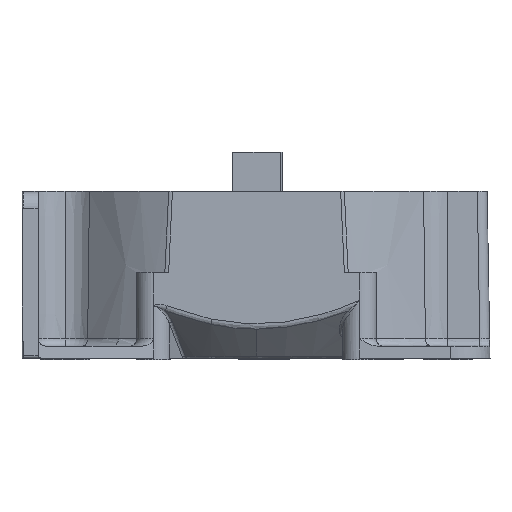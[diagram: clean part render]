
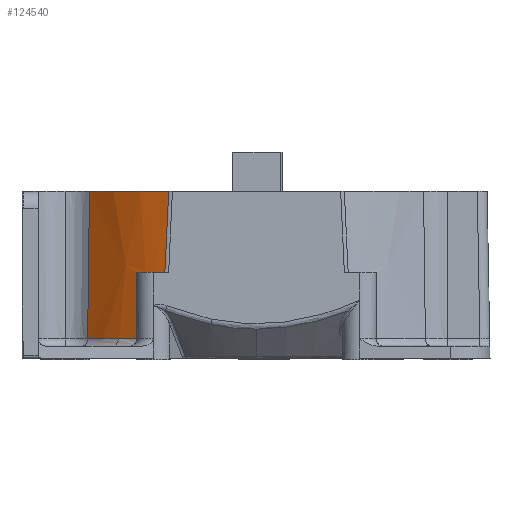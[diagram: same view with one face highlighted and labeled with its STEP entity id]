
A CAD part, left-side view. The second image highlights one B-rep face of the part: STEP entity #124540.
In plain terms, the highlighted conical face has half-angle 1 degrees and reference radius 48.687 mm.
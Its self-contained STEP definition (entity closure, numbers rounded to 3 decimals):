
#95010=CARTESIAN_POINT('',(-34.05,-10.8,0.));
#95020=VERTEX_POINT('',#95010);
#99570=CARTESIAN_POINT('',(-44.707,-26.957,0.));
#99580=VERTEX_POINT('',#99570);
#99610=CARTESIAN_POINT('',(0.,-44.85,
0.));
#99620=DIRECTION('',(0.,0.,-1.));
#99630=DIRECTION('',(-1.,0.,0.));
#99640=AXIS2_PLACEMENT_3D('',#99610,#99620,#99630);
#99650=CIRCLE('',#99640,48.154);
#99660=EDGE_CURVE('',#99580,#95020,#99650,.T.);
#123810=CARTESIAN_POINT('',(0.,-44.85,
-30.526));
#123820=DIRECTION('',(0.,0.,-1.));
#123830=DIRECTION('',(-1.,0.,0.));
#123840=AXIS2_PLACEMENT_3D('',#123810,#123820,#123830);
#123850=CONICAL_SURFACE('',#123840,48.687,0.017);
#123860=ORIENTED_EDGE('',*,*,#99660,.T.);
#123870=CARTESIAN_POINT('',(-44.695,-26.168,
-16.5));
#123880=CARTESIAN_POINT('',(-44.697,-26.297,
-13.745));
#123890=CARTESIAN_POINT('',(-44.699,-26.428,
-10.989));
#123900=CARTESIAN_POINT('',(-44.703,-26.691,
-5.489));
#123910=CARTESIAN_POINT('',(-44.705,-26.823,
-2.745));
#123920=CARTESIAN_POINT('',(-44.707,-26.957,0.));
#123930=B_SPLINE_CURVE_WITH_KNOTS('',3,(#123870,#123880,#123890,#123900,
#123910,#123920),.UNSPECIFIED.,.F.,.F.,(4,2,4),(0.,0.501,1.)
,.UNSPECIFIED.);
#123940=CARTESIAN_POINT('',(-44.695,-26.168,
-16.5));
#123950=VERTEX_POINT('',#123940);
#123960=EDGE_CURVE('',#123950,#99580,#123930,.T.);
#123970=ORIENTED_EDGE('',*,*,#123960,.T.);
#123980=CARTESIAN_POINT('',(0.,-44.85,
-16.5));
#123990=DIRECTION('',(0.,0.,-1.));
#124000=DIRECTION('',(-1.,0.,0.));
#124010=AXIS2_PLACEMENT_3D('',#123980,#123990,#124000);
#124020=CIRCLE('',#124010,48.442);
#124030=CARTESIAN_POINT('',(-41.808,-20.38,-16.5));
#124040=VERTEX_POINT('',#124030);
#124050=EDGE_CURVE('',#123950,#124040,#124020,.T.);
#124060=ORIENTED_EDGE('',*,*,#124050,.F.);
#124070=CARTESIAN_POINT('',(-42.112,-20.434,-30.));
#124080=CARTESIAN_POINT('',(-42.086,-20.428,
-28.875));
#124090=CARTESIAN_POINT('',(-42.06,-20.423,
-27.75));
#124100=CARTESIAN_POINT('',(-42.008,-20.412,
-25.5));
#124110=CARTESIAN_POINT('',(-41.983,-20.408,
-24.375));
#124120=CARTESIAN_POINT('',(-41.932,-20.399,
-22.125));
#124130=CARTESIAN_POINT('',(-41.907,-20.395,
-21.));
#124140=CARTESIAN_POINT('',(-41.857,-20.387,
-18.75));
#124150=CARTESIAN_POINT('',(-41.832,-20.383,
-17.625));
#124160=CARTESIAN_POINT('',(-41.808,-20.38,-16.5));
#124170=B_SPLINE_CURVE_WITH_KNOTS('',3,(#124070,#124080,#124090,#124100,
#124110,#124120,#124130,#124140,#124150,#124160),.UNSPECIFIED.,.F.,.F.,(
4,2,2,2,4),(0.,3.376,6.752,10.128,
13.504),.UNSPECIFIED.);
#124180=CARTESIAN_POINT('',(-42.112,-20.434,-30.));
#124190=VERTEX_POINT('',#124180);
#124200=EDGE_CURVE('',#124190,#124040,#124170,.T.);
#124210=ORIENTED_EDGE('',*,*,#124200,.T.);
#124220=CARTESIAN_POINT('',(-42.112,-20.434,-30.));
#124230=CARTESIAN_POINT('',(-42.112,-20.434,
-30.002));
#124240=CARTESIAN_POINT('',(-42.112,-20.434,
-30.004));
#124250=CARTESIAN_POINT('',(-42.112,-20.434,
-30.009));
#124260=CARTESIAN_POINT('',(-42.112,-20.434,
-30.011));
#124270=CARTESIAN_POINT('',(-42.112,-20.434,
-30.015));
#124280=CARTESIAN_POINT('',(-42.112,-20.434,
-30.017));
#124290=CARTESIAN_POINT('',(-42.112,-20.434,
-30.022));
#124300=CARTESIAN_POINT('',(-42.112,-20.434,
-30.024));
#124310=CARTESIAN_POINT('',(-42.112,-20.434,
-30.026));
#124320=B_SPLINE_CURVE_WITH_KNOTS('',3,(#124220,#124230,#124240,#124250,
#124260,#124270,#124280,#124290,#124300,#124310),.UNSPECIFIED.,.F.,.F.,(
4,2,2,2,4),(0.,0.007,0.013,0.02
,0.026),.UNSPECIFIED.);
#124330=CARTESIAN_POINT('',(-42.112,-20.434,
-30.026));
#124340=VERTEX_POINT('',#124330);
#124350=EDGE_CURVE('',#124190,#124340,#124320,.T.);
#124360=ORIENTED_EDGE('',*,*,#124350,.F.);
#124370=CARTESIAN_POINT('',(0.,-44.85,
-30.026));
#124380=DIRECTION('',(0.,0.,-1.));
#124390=DIRECTION('',(-1.,0.,0.));
#124400=AXIS2_PLACEMENT_3D('',#124370,#124380,#124390);
#124410=CIRCLE('',#124400,48.678);
#124420=CARTESIAN_POINT('',(-34.421,-10.429,
-30.026));
#124430=VERTEX_POINT('',#124420);
#124440=EDGE_CURVE('',#124340,#124430,#124410,.T.);
#124450=ORIENTED_EDGE('',*,*,#124440,.F.);
#124460=CARTESIAN_POINT('',(-34.421,-10.429,
-30.026));
#124470=DIRECTION('',(0.012,-0.012,
1.));
#124480=VECTOR('',#124470,1.);
#124490=LINE('',#124460,#124480);
#124500=EDGE_CURVE('',#124430,#95020,#124490,.T.);
#124510=ORIENTED_EDGE('',*,*,#124500,.F.);
#124520=EDGE_LOOP('',(#124510,#124450,#124360,#124210,#124060,#123970,
#123860));
#124530=FACE_OUTER_BOUND('',#124520,.T.);
#124540=ADVANCED_FACE('',(#124530),#123850,.T.);
